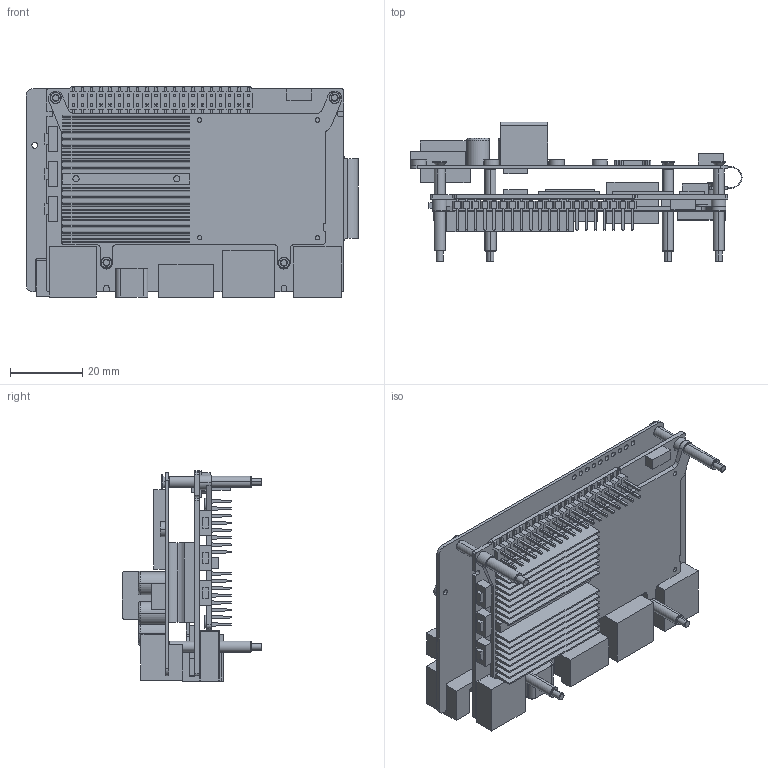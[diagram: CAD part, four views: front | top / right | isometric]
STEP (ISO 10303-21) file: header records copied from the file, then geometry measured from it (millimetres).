
FILE_DESCRIPTION (( 'STEP AP214' ), '1' );
FILE_NAME ('M2X v11 + VIM3.STEP', '2019-09-21T06:21:17', ( '' ), ( '' ), 'SwSTEP 2.0', 'SolidWorks 2018', '' );
FILE_SCHEMA (( 'AUTOMOTIVE_DESIGN' ));
Length unit declared in the file: millimetre
Products named in the file (9): Screw (M2, 4mm)_ISO 7046-1 - M2 x 4 - Z - 4N; M2X Head; VIMs_Heatsink_190108 (3); Part4^M2X v11 + VIM3; M2X v11 + VIM3; Long Standoff (Height 14mm, M2); Extended Standoff (Height 13.8mm, M2); M2X Body; VIM3 3D
Assembly tree (18 placements, depth 2):
  M2X v11 + VIM3
    VIM3 3D
    Extended Standoff (Height 13.8mm, M2)  x4
    VIMs_Heatsink_190108 (3)
    Long Standoff (Height 14mm, M2)  x4
    Screw (M2, 4mm)_ISO 7046-1 - M2 x 4 - Z - 4N  x5
    M2X Head
    M2X Body
    Part4^M2X v11 + VIM3
Bounding box: 91.65 x 38.6 x 58.23 mm (x, y, z)
Volume: 26789.5 mm3; surface area: 48061.4 mm2
Topology: 111 solids, 111 shells, 2114 faces, 5047 edges, 3182 vertices
Faces by surface type: plane 1648, cylinder 321, cone 129, torus 16
Entity records: 66121 total; most frequent: CARTESIAN_POINT 9221, ORIENTED_EDGE 8922, DIRECTION 8779, EDGE_CURVE 4461, VECTOR 3855, LINE 3855, VERTEX_POINT 2852, AXIS2_PLACEMENT_3D 2462
